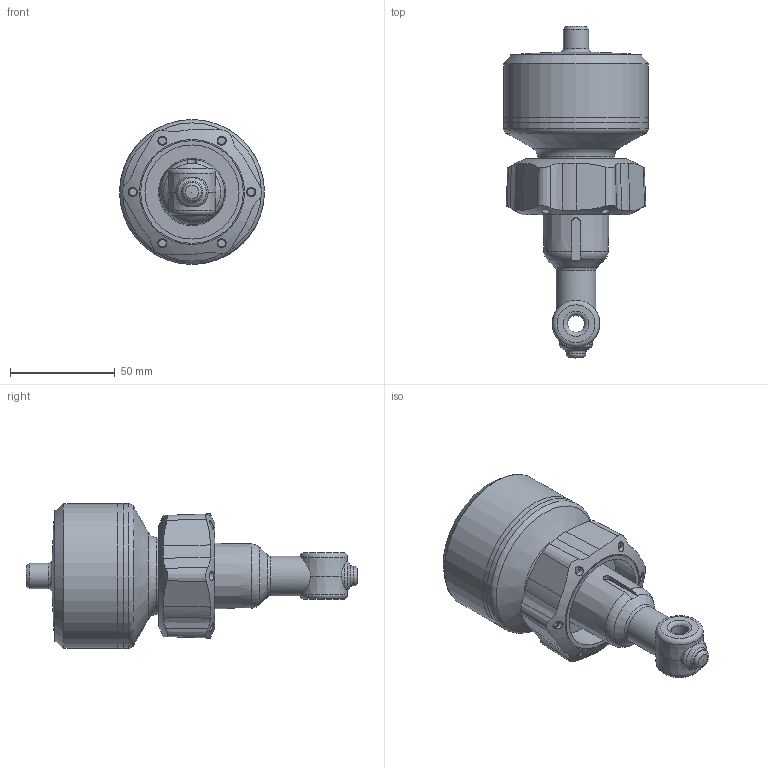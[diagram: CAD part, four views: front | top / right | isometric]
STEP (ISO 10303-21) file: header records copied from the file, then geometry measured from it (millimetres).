
FILE_DESCRIPTION(/* description */ ('STEP AP203'),/* implementation_level */ '2;1');
FILE_NAME(/* name */ 'LDL400',/* time_stamp */ '2024-07-01T10:50:27+02:00',/* author */ ('License CC BY-ND 4.0'),/* organization */ ('CADENAS'),/* preprocessor_version */ 'ST-DEVELOPER v19.3',/* originating_system */ 'PARTsolutions',/* authorisation */ ' ');
FILE_SCHEMA (('CONFIG_CONTROL_DESIGN'));
Length unit declared in the file: millimetre
Products named in the file (1): LDL400
Bounding box: 69.18 x 158.29 x 69.18 mm (x, y, z)
Volume: 257804.6 mm3; surface area: 33216 mm2
Topology: 1 solids, 1 shells, 103 faces, 246 edges, 156 vertices
Faces by surface type: cone 32, plane 27, torus 25, cylinder 18, sphere 1
Full cylindrical faces by diameter (mm): 4.325 x6, 8.4 x1, 9.191 x1, 12 x1, 18.981 x1, 44 x1, 44.845 x1, 49 x1, 69 x1
Entity records: 3503 total; most frequent: CARTESIAN_POINT 752, DIRECTION 396, ORIENTED_EDGE 358, AXIS2_PLACEMENT_3D 183, EDGE_CURVE 179, EDGE_LOOP 166, FACE_BOUND 166, VERTEX_POINT 139
